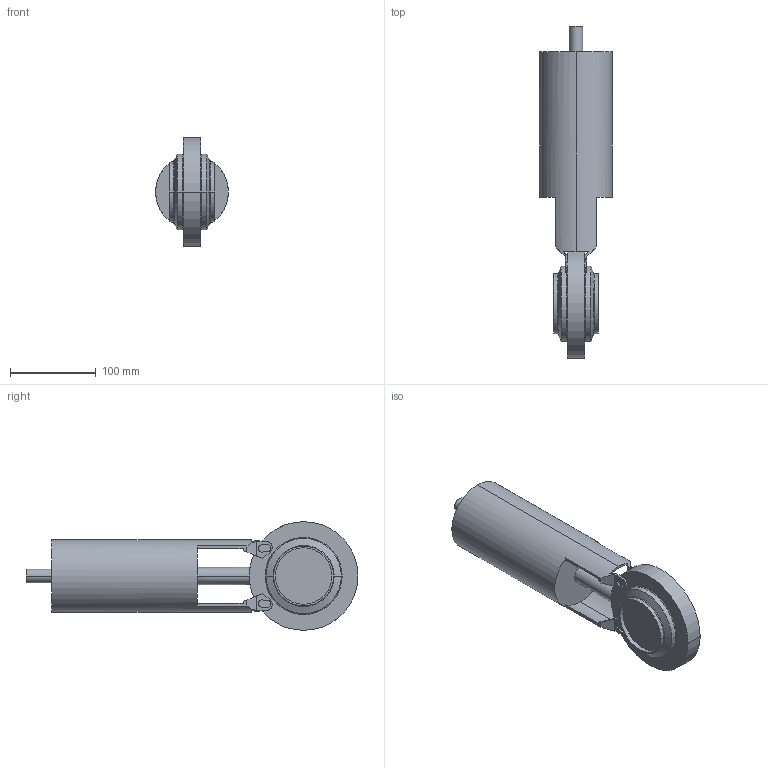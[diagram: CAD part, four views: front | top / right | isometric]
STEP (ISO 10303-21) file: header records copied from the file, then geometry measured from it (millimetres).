
FILE_DESCRIPTION(('OneSpaceDesigner STEP Export'),'2;1');
FILE_NAME('SV1-65-FZ-12S-vereint.stp','2007-04-19T14:33:57',(''),(''),'OneSpace Designer STEP processor for AP214 (Solid Model)','OneSpace Modeling 15.00 06-Feb-2007 (C) CoCreate Software GmbH','');
FILE_SCHEMA(('AUTOMOTIVE_DESIGN { 1 0 10303 214 1 1 1 1 }'));
Length unit declared in the file: millimetre
Products named in the file (3): Luftanschluß; SV1-65-FZ-12S; SV1-65-FZ-12S-vereint
Assembly tree (2 placements, depth 2):
  SV1-65-FZ-12S-vereint
    SV1-65-FZ-12S
    Luftanschluß
Bounding box: 85 x 387.93 x 127 mm (x, y, z)
Volume: 1393750.5 mm3; surface area: 120022.4 mm2
Topology: 2 solids, 2 shells, 126 faces, 333 edges, 212 vertices
Faces by surface type: plane 74, cylinder 40, torus 8, cone 4
Entity records: 4109 total; most frequent: CARTESIAN_POINT 1131, ORIENTED_EDGE 666, DIRECTION 553, EDGE_CURVE 333, VERTEX_POINT 212, VECTOR 189, LINE 189, AXIS2_PLACEMENT_3D 182
